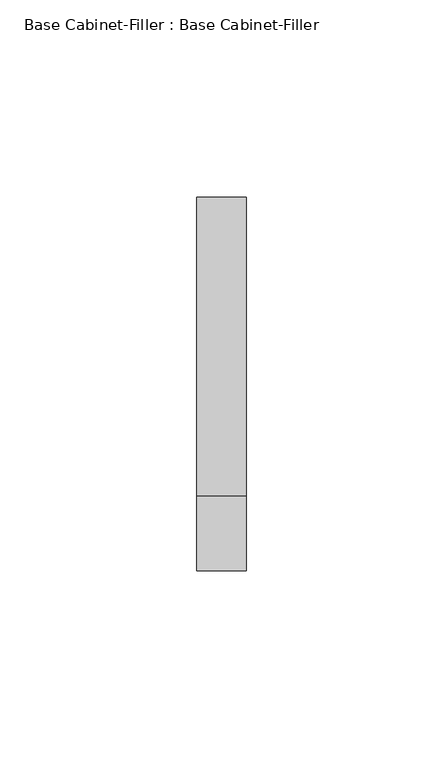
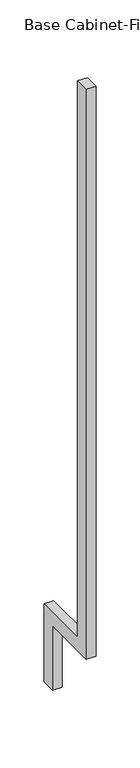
"""IFC4 building model written with IfcOpenShell, lengths in millimetres: furniture geometry, Base Cabinet-Filler : Base Cabinet-Filler."""

from ifc_helpers import new_model, si_unit, frame, origin, place, context, project, spatial, polyline, outline, extrude, source, transform, mapped, element, save


def base_cabinet_filler_base_cabinet_filler_dff9ed13(model_context):
    return source(origin(), model_context, "Body", "SweptSolid", [
        extrude(outline(polyline([(-609.6, 88.9), (-609.6, 876.3), (-590.55, 876.3), (-590.55, 107.95), (-514.35, 107.95), (-514.35, 0.0), (-533.4, 0.0), (-533.4, 88.9), (-609.6, 88.9)])), frame((12.3877049, 0.0, 0.0), z_axis=(1.0, 0.0, 0.0), x_axis=(0.0, 1.0, 0.0)), (0.0, 0.0, 1.0), 12.7),
    ])


if __name__ == "__main__":
    model = new_model("IFC4")
    model_context = context("Model", 3, world=origin())
    ifc_project = project(units=[si_unit("LENGTHUNIT", "METRE", prefix="MILLI")], contexts=[model_context])
    site = spatial("IfcSite", under=ifc_project)
    building = spatial("IfcBuilding", under=site)
    placement = place(None, origin())
    base_cabinet_filler_base_cabinet_filler_shape = base_cabinet_filler_base_cabinet_filler_dff9ed13(model_context)
    element("IfcFurniture", 1, ObjectType="Base Cabinet-Filler : Base Cabinet-Filler", at=placement, inside=building, context=model_context, shape_type="MappedRepresentation", body=[
        mapped(base_cabinet_filler_base_cabinet_filler_shape, transform((0.0, 0.0, 0.0), x_axis=(1.0, 0.0, 0.0), y_axis=(0.0, 1.0, 0.0), z_axis=(0.0, 0.0, 1.0))),
    ])
    save(model, "model.ifc")
